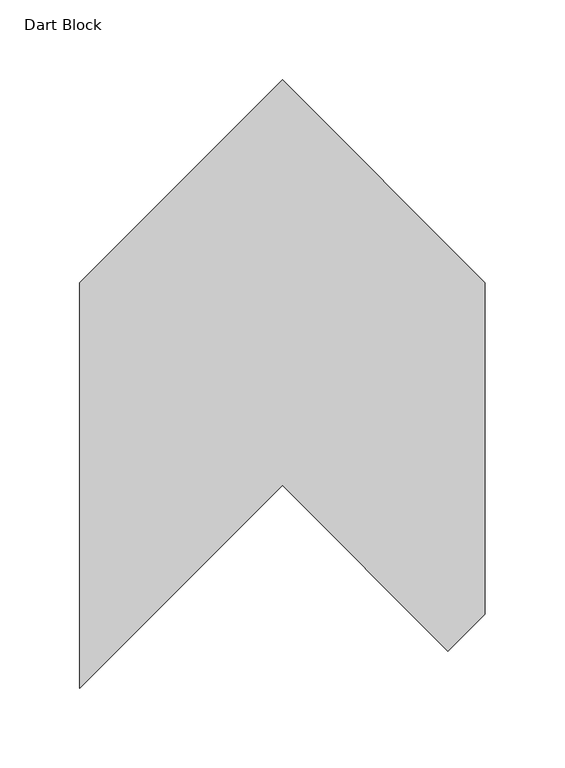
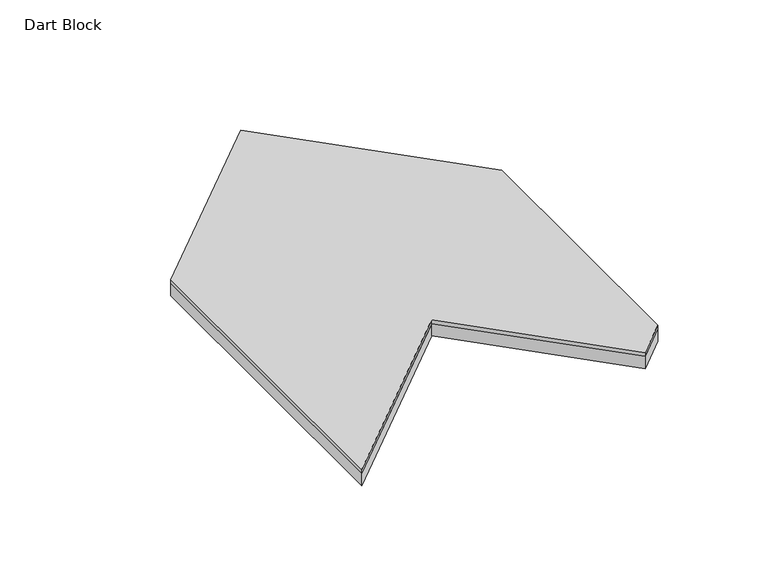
"""IFC4 building model written with IfcOpenShell, lengths in millimetres: proxy geometry, FilzFelt_Dart_Block : Dart Block."""

import ifcopenshell
import ifcopenshell.guid

model = None  # the IFC model being written
_history = None  # IfcOwnerHistory: only IFC2X3 demands one
_inside = {}  # id of a spatial element -> (the spatial element, [elements in it])
_under = {}  # id of a project, library or spatial element -> (it, [spatial elements below it])
_declared = {}  # id of a project -> (the project, [libraries it declares])
_typed = {}  # id of a type object -> (the type object, [elements of that type])
_made_of = {}  # id of a material, layer set ... -> (it, [elements and type objects made of it])


def new_model(schema):
    """Start an empty IFC model of exactly this schema.

    Asked for "IFC4X3", IfcOpenShell would pick the latest addendum, in which some entities
    have other attributes; the version numbers below select the first issue.
    IFC2X3 requires an IfcOwnerHistory on every rooted entity: one is made here for all.
    """
    global model, _history
    if schema == "IFC4X3":
        model = ifcopenshell.file(schema_version=(4, 3, 0, 0))
    else:
        model = ifcopenshell.file(schema=schema)
    _inside.clear()
    _under.clear()
    _declared.clear()
    _typed.clear()
    _made_of.clear()
    _history = None
    if model.schema == "IFC2X3":
        org = make("IfcOrganization", Name="unknown")
        user = make(
            "IfcPersonAndOrganization",
            ThePerson=make("IfcPerson", FamilyName="unknown"),
            TheOrganization=org,
        )
        app = make(
            "IfcApplication",
            ApplicationDeveloper=org,
            Version="unknown",
            ApplicationFullName="unknown",
            ApplicationIdentifier="unknown",
        )
        _history = make(
            "IfcOwnerHistory",
            OwningUser=user,
            OwningApplication=app,
            ChangeAction="ADDED",
            CreationDate=0,
        )
    return model


def make(cls, **values):
    """One entity of the class cls with the attributes given. An attribute that is None is left unset."""
    return model.create_entity(
        cls, **{name: value for name, value in values.items() if value is not None}
    )


def rooted(cls, **values):
    """An entity with a GlobalId (a new one), such as an element, a storey or a relation."""
    return make(cls, GlobalId=ifcopenshell.guid.new(), OwnerHistory=_history, **values)


def si_unit(unit_type, name, prefix=None):
    """IfcSIUnit, for example si_unit("LENGTHUNIT", "METRE", prefix="MILLI")."""
    return make("IfcSIUnit", UnitType=unit_type, Prefix=prefix, Name=name)


def assignment(units):
    """IfcUnitAssignment: the units of a project."""
    return None if units is None else make("IfcUnitAssignment", Units=units)


def point(xyz):
    """IfcCartesianPoint."""
    return None if xyz is None else make("IfcCartesianPoint", Coordinates=xyz)


def direction(xyz):
    """IfcDirection."""
    return None if xyz is None else make("IfcDirection", DirectionRatios=xyz)


def frame(location, z_axis=None, x_axis=None):
    """IfcAxis2Placement3D, a coordinate frame: its origin and axes. An axis left out is left unset."""
    return make(
        "IfcAxis2Placement3D",
        Location=point(location),
        Axis=direction(z_axis),
        RefDirection=direction(x_axis),
    )


def origin():
    """The frame at (0, 0, 0) with its axes left unset."""
    return frame((0.0, 0.0, 0.0))


def origin_with_axes():
    """The frame at (0, 0, 0) with the z axis (0, 0, 1) and the x axis (1, 0, 0) written out."""
    return frame((0.0, 0.0, 0.0), z_axis=(0.0, 0.0, 1.0), x_axis=(1.0, 0.0, 0.0))


def place(relative_to, where):
    """IfcLocalPlacement: puts the frame where relative to a parent placement (None: the world)."""
    return make(
        "IfcLocalPlacement", PlacementRelTo=relative_to, RelativePlacement=where
    )


def context(
    kind, dimensions, precision=None, world=None, true_north=None, identifier=None
):
    """IfcGeometricRepresentationContext, for example the 3D "Model" context."""
    return make(
        "IfcGeometricRepresentationContext",
        ContextIdentifier=identifier,
        ContextType=kind,
        CoordinateSpaceDimension=dimensions,
        Precision=precision,
        WorldCoordinateSystem=world,
        TrueNorth=true_north,
    )


def project(units=None, contexts=None):
    """IfcProject with its units and contexts."""
    return rooted(
        "IfcProject",
        Name="project",
        RepresentationContexts=contexts,
        UnitsInContext=assignment(units),
    )


def spatial(cls, under=None, at=None, **own):
    """A site, building, storey or space (cls), placed at a placement, below another one or the project."""
    s = rooted(cls, ObjectPlacement=at, **own)
    if under is not None:
        _under.setdefault(under.id(), (under, []))[1].append(s)
    return s


def polyline(points):
    """IfcPolyline through the points."""
    return make("IfcPolyline", Points=[point(p) for p in points])


def outline(outer, holes=None, kind="AREA"):
    """IfcArbitraryClosedProfileDef: a profile drawn as a closed curve; with holes, ...WithVoids."""
    if holes is None:
        return make("IfcArbitraryClosedProfileDef", ProfileType=kind, OuterCurve=outer)
    return make(
        "IfcArbitraryProfileDefWithVoids",
        ProfileType=kind,
        OuterCurve=outer,
        InnerCurves=holes,
    )


def extrude(swept, where, along, depth):
    """IfcExtrudedAreaSolid: the profile swept, set in the frame where, extruded along a direction by depth."""
    return make(
        "IfcExtrudedAreaSolid",
        SweptArea=swept,
        Position=where,
        ExtrudedDirection=direction(along),
        Depth=depth,
    )


def shape(context_of_items, identifier, shape_type, items):
    """IfcShapeRepresentation: the items that make up one representation, for example the "Body"."""
    return make(
        "IfcShapeRepresentation",
        ContextOfItems=context_of_items,
        RepresentationIdentifier=identifier,
        RepresentationType=shape_type,
        Items=items,
    )


def source(mapping_origin, context_of_items, identifier, shape_type, items):
    """IfcRepresentationMap: a shape defined once, which mapped items show again and again."""
    return make(
        "IfcRepresentationMap",
        MappingOrigin=mapping_origin,
        MappedRepresentation=shape(context_of_items, identifier, shape_type, items),
    )


def transform(
    local_origin,
    x_axis=None,
    y_axis=None,
    z_axis=None,
    scale=None,
    scale2=None,
    scale3=None,
    uniform=True,
):
    """IfcCartesianTransformationOperator3D, or its non-uniform kind. x_axis, y_axis, z_axis: its Axis1, 2, 3."""
    if uniform:
        return make(
            "IfcCartesianTransformationOperator3D",
            Axis1=direction(x_axis),
            Axis2=direction(y_axis),
            LocalOrigin=point(local_origin),
            Scale=scale,
            Axis3=direction(z_axis),
        )
    return make(
        "IfcCartesianTransformationOperator3DnonUniform",
        Axis1=direction(x_axis),
        Axis2=direction(y_axis),
        LocalOrigin=point(local_origin),
        Scale=scale,
        Axis3=direction(z_axis),
        Scale2=scale2,
        Scale3=scale3,
    )


def mapped(mapping_source, mapping_target):
    """IfcMappedItem: shows the shape of a source again, moved by a transform."""
    return make(
        "IfcMappedItem", MappingSource=mapping_source, MappingTarget=mapping_target
    )


def made_of(thing, what):
    """Note that an element or type object is made of a material, layer set ...; save() writes the relation."""
    if what is not None:
        _made_of.setdefault(what.id(), (what, []))[1].append(thing)
    return thing


def element(
    cls,
    number,
    at=None,
    inside=None,
    cuts=None,
    type_object=None,
    material=None,
    context=None,
    identifier="Body",
    shape_type=None,
    held_by="IfcProductDefinitionShape",
    body=None,
    shapes=None,
    **own,
):
    """One element of the class cls, such as IfcWall. Its Tag is "e" and its number.

    at: its placement. inside: the storey or other place that contains it. cuts: it is an
    opening in that element (IfcRelVoidsElement). A single representation is given by context,
    identifier, shape_type and body (its items); several are given by shapes. held_by: the class
    of the entity that holds the representations. save() writes the other relations.
    """
    e = rooted(cls, Tag="e%d" % number, ObjectPlacement=at, **own)
    if body is not None:
        shapes = [shape(context, identifier, shape_type, body)]
    if shapes is not None:
        e.Representation = make(held_by, Representations=shapes)
    if inside is not None:
        _inside.setdefault(inside.id(), (inside, []))[1].append(e)
    if cuts is not None:
        rooted(
            "IfcRelVoidsElement", RelatingBuildingElement=cuts, RelatedOpeningElement=e
        )
    if type_object is not None:
        _typed.setdefault(type_object.id(), (type_object, []))[1].append(e)
    return made_of(e, material)


def aggregate(whole, parts):
    """IfcRelAggregates: a whole, such as a stair, and the parts it consists of."""
    return rooted("IfcRelAggregates", RelatingObject=whole, RelatedObjects=parts)


def save(model, path):
    """Write the relations noted so far, then the file.

    IfcRelAggregates (storeys below a building ...), IfcRelContainedInSpatialStructure (elements
    in a storey), IfcRelDefinesByType, IfcRelAssociatesMaterial and IfcRelDeclares: one each for
    every whole, place, type object, material and project.
    """
    for whole, parts in _under.values():
        aggregate(whole, parts)
    for where, things in _inside.values():
        rooted(
            "IfcRelContainedInSpatialStructure",
            RelatedElements=things,
            RelatingStructure=where,
        )
    for kind, things in _typed.values():
        rooted("IfcRelDefinesByType", RelatedObjects=things, RelatingType=kind)
    for what, things in _made_of.values():
        rooted("IfcRelAssociatesMaterial", RelatedObjects=things, RelatingMaterial=what)
    for by, libraries in _declared.values():
        rooted("IfcRelDeclares", RelatingContext=by, RelatedDefinitions=libraries)
    model.write(path)


def dart_block_73d4f8a3(model_context):
    return source(origin(), model_context, "Body", "SweptSolid", [
        extrude(outline(polyline([(0.0, 190.5), (127.0, 63.5), (127.0, -144.1319134), (103.8159567, -167.3159567), (0.0, -63.5), (-127.0, -190.5), (-127.0, 63.5), (0.0, 190.5)])), frame((0.0, 0.0, 10.0210937), z_axis=(0.0, 0.0, 1.0), x_axis=(1.0, 0.0, 0.0)), (0.0, 0.0, 1.0), 2.9765625),
        extrude(outline(polyline([(0.0, -63.5), (-127.0, -190.5), (-127.0, 63.5), (0.0, 190.5), (127.0, 63.5), (127.0, -144.1319134), (103.8159567, -167.3159567), (0.0, -63.5)])), origin_with_axes(), (0.0, 0.0, 1.0), 10.0210938),
    ])


if __name__ == "__main__":
    model = new_model("IFC4")
    model_context = context("Model", 3, world=origin())
    ifc_project = project(units=[si_unit("LENGTHUNIT", "METRE", prefix="MILLI")], contexts=[model_context])
    site = spatial("IfcSite", under=ifc_project)
    building = spatial("IfcBuilding", under=site)
    placement = place(None, origin())
    dart_block_shape = dart_block_73d4f8a3(model_context)
    element("IfcBuildingElementProxy", 1, Name="FilzFelt_Dart_Block : Dart Block", ObjectType="FilzFelt_Dart_Block : Dart Block", at=placement, inside=building, context=model_context, shape_type="MappedRepresentation", body=[
        mapped(dart_block_shape, transform((0.0, 0.0, 0.0), x_axis=(1.0, 0.0, 0.0), y_axis=(0.0, 1.0, 0.0), z_axis=(0.0, 0.0, 1.0))),
    ])
    save(model, "model.ifc")
